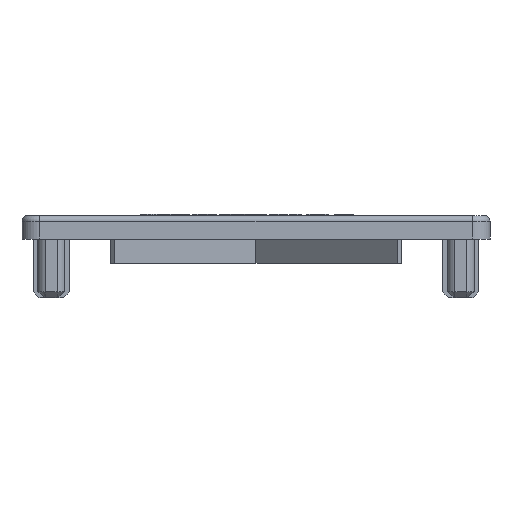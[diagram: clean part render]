
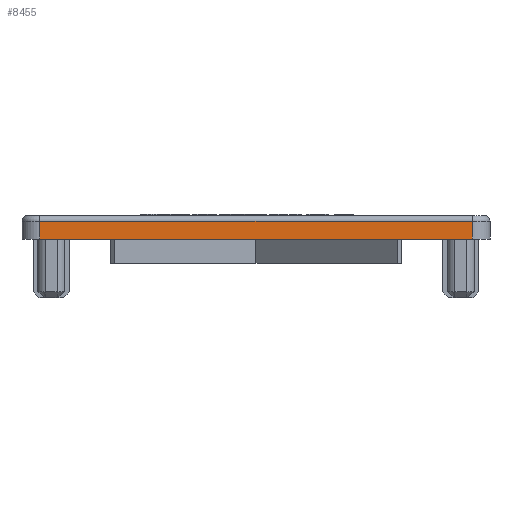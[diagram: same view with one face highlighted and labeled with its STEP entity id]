
A CAD part, front view. The second image highlights one B-rep face of the part: STEP entity #8455.
In plain terms, the highlighted planar face has unit normal (0, -1, 0).
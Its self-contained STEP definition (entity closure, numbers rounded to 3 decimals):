
#8152=CARTESIAN_POINT('',(5.934,-74.488,3.));
#8153=VERTEX_POINT('',#8152);
#8162=CARTESIAN_POINT('',(-68.066,-74.488,3.));
#8163=VERTEX_POINT('',#8162);
#8171=CARTESIAN_POINT('',(-68.066,-74.488,3.));
#8172=DIRECTION('',(1.0,0.0,0.0));
#8173=VECTOR('',#8172,74.0);
#8174=LINE('',#8171,#8173);
#8175=EDGE_CURVE('',#8163,#8153,#8174,.T.);
#8413=CARTESIAN_POINT('',(5.934,-74.488,0.0));
#8414=VERTEX_POINT('',#8413);
#8415=CARTESIAN_POINT('',(5.934,-74.488,0.0));
#8416=DIRECTION('',(0.0,0.0,1.0));
#8417=VECTOR('',#8416,3.);
#8418=LINE('',#8415,#8417);
#8419=EDGE_CURVE('',#8414,#8153,#8418,.T.);
#8432=CARTESIAN_POINT('',(5.934,-74.488,0.0));
#8433=DIRECTION('',(0.0,-1.0,0.0));
#8434=DIRECTION('',(0.0,0.0,-1.0));
#8435=AXIS2_PLACEMENT_3D('',#8432,#8433,#8434);
#8436=PLANE('',#8435);
#8437=ORIENTED_EDGE('',*,*,#8175,.F.);
#8438=CARTESIAN_POINT('',(-68.066,-74.488,0.0));
#8439=VERTEX_POINT('',#8438);
#8440=CARTESIAN_POINT('',(-68.066,-74.488,0.0));
#8441=DIRECTION('',(0.0,0.0,1.0));
#8442=VECTOR('',#8441,3.);
#8443=LINE('',#8440,#8442);
#8444=EDGE_CURVE('',#8439,#8163,#8443,.T.);
#8445=ORIENTED_EDGE('',*,*,#8444,.F.);
#8446=CARTESIAN_POINT('',(-68.066,-74.488,0.0));
#8447=DIRECTION('',(1.0,0.0,0.0));
#8448=VECTOR('',#8447,74.0);
#8449=LINE('',#8446,#8448);
#8450=EDGE_CURVE('',#8439,#8414,#8449,.T.);
#8451=ORIENTED_EDGE('',*,*,#8450,.T.);
#8452=ORIENTED_EDGE('',*,*,#8419,.T.);
#8453=EDGE_LOOP('',(#8437,#8445,#8451,#8452));
#8454=FACE_OUTER_BOUND('',#8453,.T.);
#8455=ADVANCED_FACE('',(#8454),#8436,.T.);
